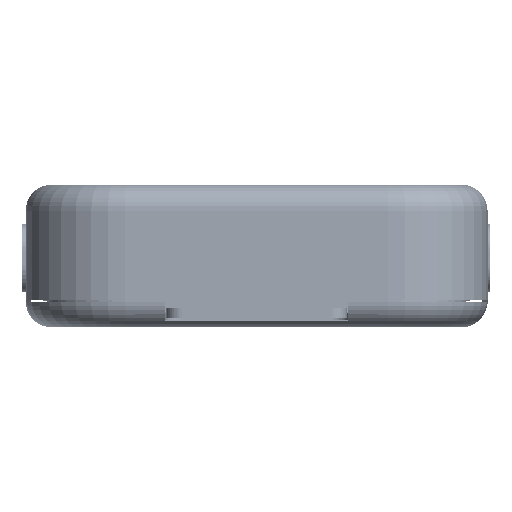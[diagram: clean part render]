
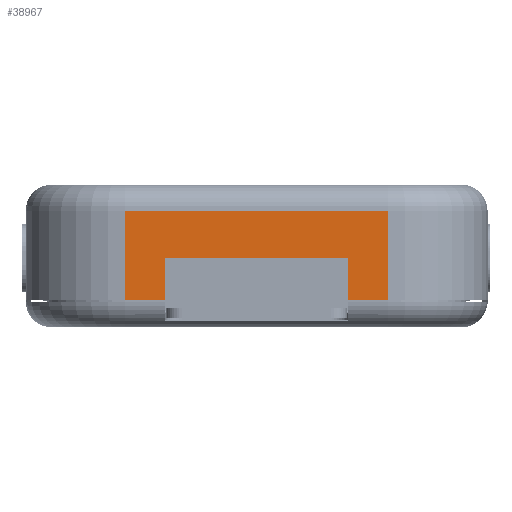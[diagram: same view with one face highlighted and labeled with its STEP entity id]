
A CAD part, front view. The second image highlights one B-rep face of the part: STEP entity #38967.
In plain terms, the highlighted planar face has unit normal (0, -1, 0).
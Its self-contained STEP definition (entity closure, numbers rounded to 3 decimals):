
#37615 = CYLINDRICAL_SURFACE('',#37616,19.);
#37616 = AXIS2_PLACEMENT_3D('',#37617,#37618,#37619);
#37617 = CARTESIAN_POINT('',(-25.,-49.,-14.));
#37618 = DIRECTION('',(0.,0.,1.));
#37619 = DIRECTION('',(-1.,-0.,0.));
#37643 = PLANE('',#37644);
#37644 = AXIS2_PLACEMENT_3D('',#37645,#37646,#37647);
#37645 = CARTESIAN_POINT('',(-100.,-110.,-8.));
#37646 = DIRECTION('',(0.,0.,1.));
#37647 = DIRECTION('',(1.,0.,-0.));
#37780 = VERTEX_POINT('',#37781);
#37781 = CARTESIAN_POINT('',(-25.,-68.,-8.));
#37803 = EDGE_CURVE('',#37780,#37804,#37806,.T.);
#37804 = VERTEX_POINT('',#37805);
#37805 = CARTESIAN_POINT('',(-25.,-68.,9.));
#37806 = SURFACE_CURVE('',#37807,(#37811,#37818),.PCURVE_S1.);
#37807 = LINE('',#37808,#37809);
#37808 = CARTESIAN_POINT('',(-25.,-68.,-14.));
#37809 = VECTOR('',#37810,1.);
#37810 = DIRECTION('',(0.,0.,1.));
#37811 = PCURVE('',#37615,#37812);
#37812 = DEFINITIONAL_REPRESENTATION('',(#37813),#37817);
#37813 = LINE('',#37814,#37815);
#37814 = CARTESIAN_POINT('',(1.571,0.));
#37815 = VECTOR('',#37816,1.);
#37816 = DIRECTION('',(0.,1.));
#37817 = ( GEOMETRIC_REPRESENTATION_CONTEXT(2) 
PARAMETRIC_REPRESENTATION_CONTEXT() REPRESENTATION_CONTEXT('2D SPACE',''
  ) );
#37818 = PCURVE('',#37819,#37824);
#37819 = PLANE('',#37820);
#37820 = AXIS2_PLACEMENT_3D('',#37821,#37822,#37823);
#37821 = CARTESIAN_POINT('',(-44.,-68.,-14.));
#37822 = DIRECTION('',(0.,1.,0.));
#37823 = DIRECTION('',(0.,-0.,1.));
#37824 = DEFINITIONAL_REPRESENTATION('',(#37825),#37829);
#37825 = LINE('',#37826,#37827);
#37826 = CARTESIAN_POINT('',(0.,19.));
#37827 = VECTOR('',#37828,1.);
#37828 = DIRECTION('',(1.,0.));
#37829 = ( GEOMETRIC_REPRESENTATION_CONTEXT(2) 
PARAMETRIC_REPRESENTATION_CONTEXT() REPRESENTATION_CONTEXT('2D SPACE',''
  ) );
#38308 = EDGE_CURVE('',#37780,#38309,#38311,.T.);
#38309 = VERTEX_POINT('',#38310);
#38310 = CARTESIAN_POINT('',(-17.5,-68.,-8.));
#38311 = SURFACE_CURVE('',#38312,(#38316,#38323),.PCURVE_S1.);
#38312 = LINE('',#38313,#38314);
#38313 = CARTESIAN_POINT('',(-72.,-68.,-8.));
#38314 = VECTOR('',#38315,1.);
#38315 = DIRECTION('',(1.,0.,0.));
#38316 = PCURVE('',#37643,#38317);
#38317 = DEFINITIONAL_REPRESENTATION('',(#38318),#38322);
#38318 = LINE('',#38319,#38320);
#38319 = CARTESIAN_POINT('',(28.,42.));
#38320 = VECTOR('',#38321,1.);
#38321 = DIRECTION('',(1.,0.));
#38322 = ( GEOMETRIC_REPRESENTATION_CONTEXT(2) 
PARAMETRIC_REPRESENTATION_CONTEXT() REPRESENTATION_CONTEXT('2D SPACE',''
  ) );
#38323 = PCURVE('',#37819,#38324);
#38324 = DEFINITIONAL_REPRESENTATION('',(#38325),#38329);
#38325 = LINE('',#38326,#38327);
#38326 = CARTESIAN_POINT('',(6.,-28.));
#38327 = VECTOR('',#38328,1.);
#38328 = DIRECTION('',(0.,1.));
#38329 = ( GEOMETRIC_REPRESENTATION_CONTEXT(2) 
PARAMETRIC_REPRESENTATION_CONTEXT() REPRESENTATION_CONTEXT('2D SPACE',''
  ) );
#38347 = PLANE('',#38348);
#38348 = AXIS2_PLACEMENT_3D('',#38349,#38350,#38351);
#38349 = CARTESIAN_POINT('',(-17.5,-74.,-12.));
#38350 = DIRECTION('',(1.,0.,0.));
#38351 = DIRECTION('',(0.,0.,1.));
#38957 = CYLINDRICAL_SURFACE('',#38958,5.);
#38958 = AXIS2_PLACEMENT_3D('',#38959,#38960,#38961);
#38959 = CARTESIAN_POINT('',(25.,-63.,9.));
#38960 = DIRECTION('',(-1.,-0.,-0.));
#38961 = DIRECTION('',(0.,-1.,0.));
#38967 = ADVANCED_FACE('',(#38968),#37819,.F.);
#38968 = FACE_BOUND('',#38969,.F.);
#38969 = EDGE_LOOP('',(#38970,#38971,#38972,#38995,#39023,#39051,#39079,
    #39107));
#38970 = ORIENTED_EDGE('',*,*,#38308,.F.);
#38971 = ORIENTED_EDGE('',*,*,#37803,.T.);
#38972 = ORIENTED_EDGE('',*,*,#38973,.F.);
#38973 = EDGE_CURVE('',#38974,#37804,#38976,.T.);
#38974 = VERTEX_POINT('',#38975);
#38975 = CARTESIAN_POINT('',(25.,-68.,9.));
#38976 = SURFACE_CURVE('',#38977,(#38981,#38988),.PCURVE_S1.);
#38977 = LINE('',#38978,#38979);
#38978 = CARTESIAN_POINT('',(25.,-68.,9.));
#38979 = VECTOR('',#38980,1.);
#38980 = DIRECTION('',(-1.,-0.,-0.));
#38981 = PCURVE('',#37819,#38982);
#38982 = DEFINITIONAL_REPRESENTATION('',(#38983),#38987);
#38983 = LINE('',#38984,#38985);
#38984 = CARTESIAN_POINT('',(23.,69.));
#38985 = VECTOR('',#38986,1.);
#38986 = DIRECTION('',(0.,-1.));
#38987 = ( GEOMETRIC_REPRESENTATION_CONTEXT(2) 
PARAMETRIC_REPRESENTATION_CONTEXT() REPRESENTATION_CONTEXT('2D SPACE',''
  ) );
#38988 = PCURVE('',#38957,#38989);
#38989 = DEFINITIONAL_REPRESENTATION('',(#38990),#38994);
#38990 = LINE('',#38991,#38992);
#38991 = CARTESIAN_POINT('',(0.,0.));
#38992 = VECTOR('',#38993,1.);
#38993 = DIRECTION('',(0.,1.));
#38994 = ( GEOMETRIC_REPRESENTATION_CONTEXT(2) 
PARAMETRIC_REPRESENTATION_CONTEXT() REPRESENTATION_CONTEXT('2D SPACE',''
  ) );
#38995 = ORIENTED_EDGE('',*,*,#38996,.F.);
#38996 = EDGE_CURVE('',#38997,#38974,#38999,.T.);
#38997 = VERTEX_POINT('',#38998);
#38998 = CARTESIAN_POINT('',(25.,-68.,-8.));
#38999 = SURFACE_CURVE('',#39000,(#39004,#39011),.PCURVE_S1.);
#39000 = LINE('',#39001,#39002);
#39001 = CARTESIAN_POINT('',(25.,-68.,-14.));
#39002 = VECTOR('',#39003,1.);
#39003 = DIRECTION('',(0.,0.,1.));
#39004 = PCURVE('',#37819,#39005);
#39005 = DEFINITIONAL_REPRESENTATION('',(#39006),#39010);
#39006 = LINE('',#39007,#39008);
#39007 = CARTESIAN_POINT('',(0.,69.));
#39008 = VECTOR('',#39009,1.);
#39009 = DIRECTION('',(1.,0.));
#39010 = ( GEOMETRIC_REPRESENTATION_CONTEXT(2) 
PARAMETRIC_REPRESENTATION_CONTEXT() REPRESENTATION_CONTEXT('2D SPACE',''
  ) );
#39011 = PCURVE('',#39012,#39017);
#39012 = CYLINDRICAL_SURFACE('',#39013,19.);
#39013 = AXIS2_PLACEMENT_3D('',#39014,#39015,#39016);
#39014 = CARTESIAN_POINT('',(25.,-49.,-14.));
#39015 = DIRECTION('',(0.,0.,1.));
#39016 = DIRECTION('',(1.,0.,-0.));
#39017 = DEFINITIONAL_REPRESENTATION('',(#39018),#39022);
#39018 = LINE('',#39019,#39020);
#39019 = CARTESIAN_POINT('',(4.712,0.));
#39020 = VECTOR('',#39021,1.);
#39021 = DIRECTION('',(-0.,1.));
#39022 = ( GEOMETRIC_REPRESENTATION_CONTEXT(2) 
PARAMETRIC_REPRESENTATION_CONTEXT() REPRESENTATION_CONTEXT('2D SPACE',''
  ) );
#39023 = ORIENTED_EDGE('',*,*,#39024,.F.);
#39024 = EDGE_CURVE('',#39025,#38997,#39027,.T.);
#39025 = VERTEX_POINT('',#39026);
#39026 = CARTESIAN_POINT('',(17.5,-68.,-8.));
#39027 = SURFACE_CURVE('',#39028,(#39032,#39039),.PCURVE_S1.);
#39028 = LINE('',#39029,#39030);
#39029 = CARTESIAN_POINT('',(-72.,-68.,-8.));
#39030 = VECTOR('',#39031,1.);
#39031 = DIRECTION('',(1.,0.,0.));
#39032 = PCURVE('',#37819,#39033);
#39033 = DEFINITIONAL_REPRESENTATION('',(#39034),#39038);
#39034 = LINE('',#39035,#39036);
#39035 = CARTESIAN_POINT('',(6.,-28.));
#39036 = VECTOR('',#39037,1.);
#39037 = DIRECTION('',(0.,1.));
#39038 = ( GEOMETRIC_REPRESENTATION_CONTEXT(2) 
PARAMETRIC_REPRESENTATION_CONTEXT() REPRESENTATION_CONTEXT('2D SPACE',''
  ) );
#39039 = PCURVE('',#39040,#39045);
#39040 = PLANE('',#39041);
#39041 = AXIS2_PLACEMENT_3D('',#39042,#39043,#39044);
#39042 = CARTESIAN_POINT('',(-100.,-110.,-8.));
#39043 = DIRECTION('',(0.,0.,1.));
#39044 = DIRECTION('',(1.,0.,-0.));
#39045 = DEFINITIONAL_REPRESENTATION('',(#39046),#39050);
#39046 = LINE('',#39047,#39048);
#39047 = CARTESIAN_POINT('',(28.,42.));
#39048 = VECTOR('',#39049,1.);
#39049 = DIRECTION('',(1.,0.));
#39050 = ( GEOMETRIC_REPRESENTATION_CONTEXT(2) 
PARAMETRIC_REPRESENTATION_CONTEXT() REPRESENTATION_CONTEXT('2D SPACE',''
  ) );
#39051 = ORIENTED_EDGE('',*,*,#39052,.F.);
#39052 = EDGE_CURVE('',#39053,#39025,#39055,.T.);
#39053 = VERTEX_POINT('',#39054);
#39054 = CARTESIAN_POINT('',(17.5,-68.,0.));
#39055 = SURFACE_CURVE('',#39056,(#39060,#39067),.PCURVE_S1.);
#39056 = LINE('',#39057,#39058);
#39057 = CARTESIAN_POINT('',(17.5,-68.,-13.));
#39058 = VECTOR('',#39059,1.);
#39059 = DIRECTION('',(0.,0.,-1.));
#39060 = PCURVE('',#37819,#39061);
#39061 = DEFINITIONAL_REPRESENTATION('',(#39062),#39066);
#39062 = LINE('',#39063,#39064);
#39063 = CARTESIAN_POINT('',(1.,61.5));
#39064 = VECTOR('',#39065,1.);
#39065 = DIRECTION('',(-1.,0.));
#39066 = ( GEOMETRIC_REPRESENTATION_CONTEXT(2) 
PARAMETRIC_REPRESENTATION_CONTEXT() REPRESENTATION_CONTEXT('2D SPACE',''
  ) );
#39067 = PCURVE('',#39068,#39073);
#39068 = PLANE('',#39069);
#39069 = AXIS2_PLACEMENT_3D('',#39070,#39071,#39072);
#39070 = CARTESIAN_POINT('',(17.5,-74.,-12.));
#39071 = DIRECTION('',(1.,0.,0.));
#39072 = DIRECTION('',(0.,0.,1.));
#39073 = DEFINITIONAL_REPRESENTATION('',(#39074),#39078);
#39074 = LINE('',#39075,#39076);
#39075 = CARTESIAN_POINT('',(-1.,-6.));
#39076 = VECTOR('',#39077,1.);
#39077 = DIRECTION('',(-1.,0.));
#39078 = ( GEOMETRIC_REPRESENTATION_CONTEXT(2) 
PARAMETRIC_REPRESENTATION_CONTEXT() REPRESENTATION_CONTEXT('2D SPACE',''
  ) );
#39079 = ORIENTED_EDGE('',*,*,#39080,.F.);
#39080 = EDGE_CURVE('',#39081,#39053,#39083,.T.);
#39081 = VERTEX_POINT('',#39082);
#39082 = CARTESIAN_POINT('',(-17.5,-68.,0.));
#39083 = SURFACE_CURVE('',#39084,(#39088,#39095),.PCURVE_S1.);
#39084 = LINE('',#39085,#39086);
#39085 = CARTESIAN_POINT('',(-30.75,-68.,0.));
#39086 = VECTOR('',#39087,1.);
#39087 = DIRECTION('',(1.,0.,0.));
#39088 = PCURVE('',#37819,#39089);
#39089 = DEFINITIONAL_REPRESENTATION('',(#39090),#39094);
#39090 = LINE('',#39091,#39092);
#39091 = CARTESIAN_POINT('',(14.,13.25));
#39092 = VECTOR('',#39093,1.);
#39093 = DIRECTION('',(0.,1.));
#39094 = ( GEOMETRIC_REPRESENTATION_CONTEXT(2) 
PARAMETRIC_REPRESENTATION_CONTEXT() REPRESENTATION_CONTEXT('2D SPACE',''
  ) );
#39095 = PCURVE('',#39096,#39101);
#39096 = PLANE('',#39097);
#39097 = AXIS2_PLACEMENT_3D('',#39098,#39099,#39100);
#39098 = CARTESIAN_POINT('',(-17.5,-74.,0.));
#39099 = DIRECTION('',(0.,0.,1.));
#39100 = DIRECTION('',(1.,0.,-0.));
#39101 = DEFINITIONAL_REPRESENTATION('',(#39102),#39106);
#39102 = LINE('',#39103,#39104);
#39103 = CARTESIAN_POINT('',(-13.25,6.));
#39104 = VECTOR('',#39105,1.);
#39105 = DIRECTION('',(1.,0.));
#39106 = ( GEOMETRIC_REPRESENTATION_CONTEXT(2) 
PARAMETRIC_REPRESENTATION_CONTEXT() REPRESENTATION_CONTEXT('2D SPACE',''
  ) );
#39107 = ORIENTED_EDGE('',*,*,#39108,.T.);
#39108 = EDGE_CURVE('',#39081,#38309,#39109,.T.);
#39109 = SURFACE_CURVE('',#39110,(#39114,#39121),.PCURVE_S1.);
#39110 = LINE('',#39111,#39112);
#39111 = CARTESIAN_POINT('',(-17.5,-68.,-13.));
#39112 = VECTOR('',#39113,1.);
#39113 = DIRECTION('',(0.,0.,-1.));
#39114 = PCURVE('',#37819,#39115);
#39115 = DEFINITIONAL_REPRESENTATION('',(#39116),#39120);
#39116 = LINE('',#39117,#39118);
#39117 = CARTESIAN_POINT('',(1.,26.5));
#39118 = VECTOR('',#39119,1.);
#39119 = DIRECTION('',(-1.,0.));
#39120 = ( GEOMETRIC_REPRESENTATION_CONTEXT(2) 
PARAMETRIC_REPRESENTATION_CONTEXT() REPRESENTATION_CONTEXT('2D SPACE',''
  ) );
#39121 = PCURVE('',#38347,#39122);
#39122 = DEFINITIONAL_REPRESENTATION('',(#39123),#39127);
#39123 = LINE('',#39124,#39125);
#39124 = CARTESIAN_POINT('',(-1.,-6.));
#39125 = VECTOR('',#39126,1.);
#39126 = DIRECTION('',(-1.,0.));
#39127 = ( GEOMETRIC_REPRESENTATION_CONTEXT(2) 
PARAMETRIC_REPRESENTATION_CONTEXT() REPRESENTATION_CONTEXT('2D SPACE',''
  ) );
